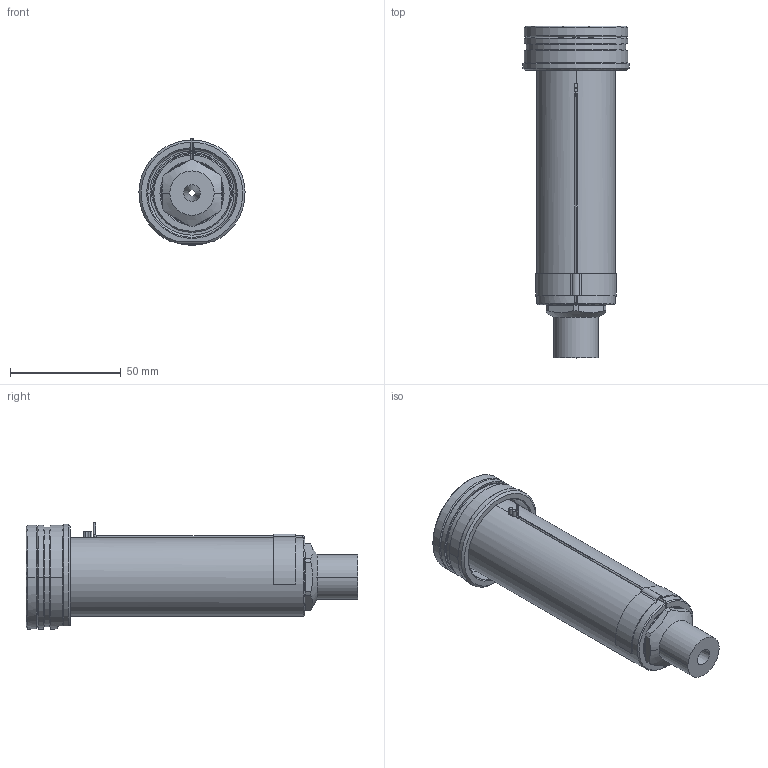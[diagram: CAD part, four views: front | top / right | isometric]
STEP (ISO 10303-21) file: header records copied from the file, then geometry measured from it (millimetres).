
FILE_DESCRIPTION((''),'2;1');
FILE_NAME('EO16_SG_ESG_120_SW','2024-02-19T12:35:18',('sundharh'),(''),'CREO PARAMETRIC BY PTC INC, 2023154','CREO PARAMETRIC BY PTC INC, 2023154','');
FILE_SCHEMA(('CONFIG_CONTROL_DESIGN'));
Length unit declared in the file: millimetre
Products named in the file (1): EO16_SG_ESG_120_SW
Bounding box: 47.97 x 150 x 48 mm (x, y, z)
Volume: 119853.3 mm3; surface area: 30728.4 mm2
Topology: 1 solids, 1 shells, 164 faces, 403 edges, 245 vertices
Faces by surface type: cylinder 64, plane 45, cone 31, torus 14, bspline 7, sphere 3
Entity records: 5551 total; most frequent: CARTESIAN_POINT 1620, DIRECTION 868, ORIENTED_EDGE 790, EDGE_CURVE 395, AXIS2_PLACEMENT_3D 358, VERTEX_POINT 245, CIRCLE 201, EDGE_LOOP 180
